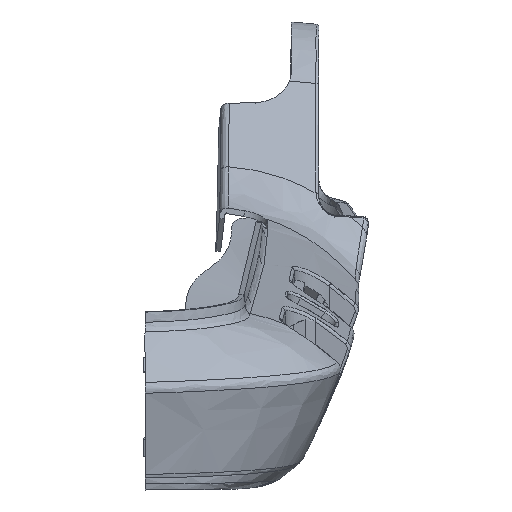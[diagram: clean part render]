
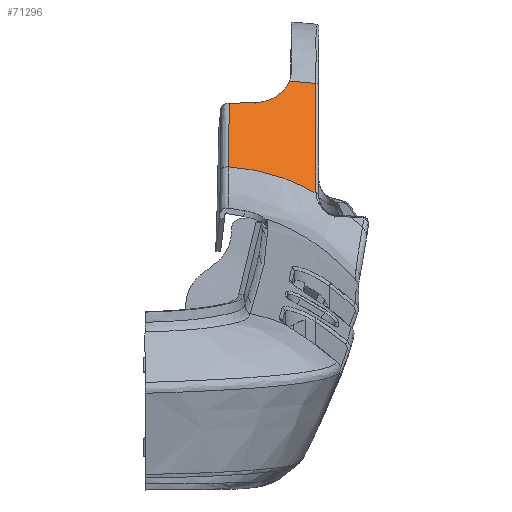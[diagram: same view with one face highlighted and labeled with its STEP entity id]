
A CAD part, left-side view. The second image highlights one B-rep face of the part: STEP entity #71296.
In plain terms, the highlighted planar face has unit normal (-0.824, -0.087, 0.56).
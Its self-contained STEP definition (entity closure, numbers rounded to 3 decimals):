
#70266=AXIS2_PLACEMENT_3D('Plane Axis2P3D',#70263,#70264,#70265) ;
#51668=CARTESIAN_POINT('Vertex',(-138.723,-967.339,553.753)) ;
#51672=CARTESIAN_POINT('Control Point',(-134.352,-923.243,567.048)) ;
#51673=CARTESIAN_POINT('Control Point',(-134.332,-923.549,567.03)) ;
#51674=CARTESIAN_POINT('Control Point',(-134.313,-923.855,567.01)) ;
#51675=CARTESIAN_POINT('Control Point',(-134.295,-924.161,566.989)) ;
#51676=CARTESIAN_POINT('Control Point',(-133.767,-933.468,566.317)) ;
#51677=CARTESIAN_POINT('Control Point',(-134.014,-942.781,564.505)) ;
#51678=CARTESIAN_POINT('Control Point',(-134.984,-951.465,561.726)) ;
#51679=CARTESIAN_POINT('Control Point',(-136.59,-959.669,558.086)) ;
#51680=CARTESIAN_POINT('Control Point',(-138.721,-967.339,553.757)) ;
#51681=CARTESIAN_POINT('Vertex',(-134.352,-923.243,567.048)) ;
#57758=CARTESIAN_POINT('Vertex',(-110.908,-936.726,599.442)) ;
#57762=CARTESIAN_POINT('Control Point',(-101.723,-953.946,610.275)) ;
#57763=CARTESIAN_POINT('Control Point',(-102.951,-953.301,608.57)) ;
#57764=CARTESIAN_POINT('Control Point',(-104.149,-952.372,606.952)) ;
#57765=CARTESIAN_POINT('Control Point',(-105.294,-951.167,605.454)) ;
#57766=CARTESIAN_POINT('Control Point',(-107.554,-948.076,602.61)) ;
#57767=CARTESIAN_POINT('Control Point',(-109.3,-944.063,600.666)) ;
#57768=CARTESIAN_POINT('Control Point',(-110.05,-941.715,599.928)) ;
#57769=CARTESIAN_POINT('Control Point',(-110.59,-939.241,599.518)) ;
#57770=CARTESIAN_POINT('Control Point',(-110.908,-936.726,599.442)) ;
#57771=CARTESIAN_POINT('Vertex',(-101.723,-953.946,610.275)) ;
#58117=CARTESIAN_POINT('Vertex',(-112.57,-923.576,599.043)) ;
#58121=CARTESIAN_POINT('Control Point',(-112.57,-923.576,599.043)) ;
#58122=CARTESIAN_POINT('Control Point',(-112.147,-926.927,599.145)) ;
#58123=CARTESIAN_POINT('Control Point',(-111.725,-930.265,599.246)) ;
#58124=CARTESIAN_POINT('Control Point',(-111.315,-933.504,599.344)) ;
#58125=CARTESIAN_POINT('Control Point',(-110.908,-936.726,599.442)) ;
#61404=CARTESIAN_POINT('Vertex',(-101.104,-967.328,609.104)) ;
#61431=CARTESIAN_POINT('Control Point',(-101.104,-967.328,609.104)) ;
#61432=CARTESIAN_POINT('Control Point',(-101.228,-964.651,609.339)) ;
#61433=CARTESIAN_POINT('Control Point',(-101.352,-961.975,609.573)) ;
#61434=CARTESIAN_POINT('Control Point',(-101.476,-959.299,609.807)) ;
#61435=CARTESIAN_POINT('Control Point',(-101.6,-956.622,610.041)) ;
#61436=CARTESIAN_POINT('Control Point',(-101.723,-953.946,610.275)) ;
#70263=CARTESIAN_POINT('Axis2P3D Location',(-83.036,-924.773,642.311)) ;
#71215=CARTESIAN_POINT('Vertex',(-138.376,-967.328,554.266)) ;
#71219=CARTESIAN_POINT('Control Point',(-138.721,-967.338,553.757)) ;
#71220=CARTESIAN_POINT('Control Point',(-138.609,-967.331,553.922)) ;
#71221=CARTESIAN_POINT('Control Point',(-138.495,-967.328,554.092)) ;
#71222=CARTESIAN_POINT('Control Point',(-138.376,-967.328,554.266)) ;
#71239=CARTESIAN_POINT('Control Point',(-134.352,-923.243,567.048)) ;
#71240=CARTESIAN_POINT('Control Point',(-133.958,-923.253,567.627)) ;
#71241=CARTESIAN_POINT('Control Point',(-133.563,-923.262,568.206)) ;
#71242=CARTESIAN_POINT('Control Point',(-133.168,-923.271,568.786)) ;
#71243=CARTESIAN_POINT('Control Point',(-132.477,-923.285,569.8)) ;
#71244=CARTESIAN_POINT('Control Point',(-131.785,-923.298,570.816)) ;
#71245=CARTESIAN_POINT('Control Point',(-131.489,-923.303,571.251)) ;
#71246=CARTESIAN_POINT('Control Point',(-131.143,-923.309,571.759)) ;
#71247=CARTESIAN_POINT('Control Point',(-130.797,-923.314,572.267)) ;
#71248=CARTESIAN_POINT('Control Point',(-130.748,-923.315,572.34)) ;
#71249=CARTESIAN_POINT('Control Point',(-130.648,-923.317,572.486)) ;
#71250=CARTESIAN_POINT('Control Point',(-130.55,-923.318,572.63)) ;
#71251=CARTESIAN_POINT('Control Point',(-130.501,-923.319,572.702)) ;
#71252=CARTESIAN_POINT('Control Point',(-130.385,-923.321,572.872)) ;
#71253=CARTESIAN_POINT('Control Point',(-130.269,-923.322,573.043)) ;
#71254=CARTESIAN_POINT('Control Point',(-130.227,-923.323,573.104)) ;
#71255=CARTESIAN_POINT('Control Point',(-129.97,-923.327,573.482)) ;
#71256=CARTESIAN_POINT('Control Point',(-129.712,-923.33,573.861)) ;
#71257=CARTESIAN_POINT('Control Point',(-129.523,-923.333,574.138)) ;
#71258=CARTESIAN_POINT('Control Point',(-129.263,-923.337,574.52)) ;
#71259=CARTESIAN_POINT('Control Point',(-129.003,-923.34,574.902)) ;
#71260=CARTESIAN_POINT('Control Point',(-128.964,-923.341,574.96)) ;
#71261=CARTESIAN_POINT('Control Point',(-128.802,-923.343,575.199)) ;
#71262=CARTESIAN_POINT('Control Point',(-128.621,-923.346,575.464)) ;
#71263=CARTESIAN_POINT('Control Point',(-128.533,-923.347,575.593)) ;
#71264=CARTESIAN_POINT('Control Point',(-128.267,-923.351,575.984)) ;
#71265=CARTESIAN_POINT('Control Point',(-127.994,-923.355,576.384)) ;
#71266=CARTESIAN_POINT('Control Point',(-127.82,-923.357,576.64)) ;
#71267=CARTESIAN_POINT('Control Point',(-127.455,-923.363,577.177)) ;
#71268=CARTESIAN_POINT('Control Point',(-127.089,-923.368,577.714)) ;
#71269=CARTESIAN_POINT('Control Point',(-126.915,-923.37,577.97)) ;
#71270=CARTESIAN_POINT('Control Point',(-126.642,-923.374,578.371)) ;
#71271=CARTESIAN_POINT('Control Point',(-126.376,-923.378,578.762)) ;
#71272=CARTESIAN_POINT('Control Point',(-126.288,-923.379,578.891)) ;
#71273=CARTESIAN_POINT('Control Point',(-126.107,-923.382,579.157)) ;
#71274=CARTESIAN_POINT('Control Point',(-125.942,-923.384,579.399)) ;
#71275=CARTESIAN_POINT('Control Point',(-125.902,-923.385,579.459)) ;
#71276=CARTESIAN_POINT('Control Point',(-123.193,-923.424,583.438)) ;
#71277=CARTESIAN_POINT('Control Point',(-120.484,-923.462,587.417)) ;
#71278=CARTESIAN_POINT('Control Point',(-117.846,-923.5,591.293)) ;
#71279=CARTESIAN_POINT('Control Point',(-115.208,-923.538,595.168)) ;
#71280=CARTESIAN_POINT('Control Point',(-112.57,-923.576,599.043)) ;
#71282=CARTESIAN_POINT('Line Origine',(-119.74,-967.328,581.685)) ;
#70264=DIRECTION('Axis2P3D Direction',(-0.824,-0.087,0.56)) ;
#70265=DIRECTION('Axis2P3D XDirection',(-0.562,0.,-0.827)) ;
#71283=DIRECTION('Vector Direction',(0.562,0.,0.827)) ;
#71284=VECTOR('Line Direction',#71283,1.) ;
#71288=ORIENTED_EDGE('',*,*,#61437,.F.) ;
#71289=ORIENTED_EDGE('',*,*,#57773,.T.) ;
#71290=ORIENTED_EDGE('',*,*,#58126,.F.) ;
#71291=ORIENTED_EDGE('',*,*,#71281,.F.) ;
#71292=ORIENTED_EDGE('',*,*,#51683,.F.) ;
#71293=ORIENTED_EDGE('',*,*,#71223,.T.) ;
#71294=ORIENTED_EDGE('',*,*,#71286,.T.) ;
#71296=ADVANCED_FACE('\X2\53F3\X0\ \X2\9970677F\X0\',(#71295),#70267,.T.) ;
#51671=B_SPLINE_CURVE_WITH_KNOTS('',5,(#51672,#51673,#51674,#51675,#51676,#51677,#51678,#51679,#51680),.UNSPECIFIED.,.F.,.U.,(6,3,6),(-1.476,-0.226,36.534),.UNSPECIFIED.) ;
#57761=B_SPLINE_CURVE_WITH_KNOTS('',5,(#57762,#57763,#57764,#57765,#57766,#57767,#57768,#57769,#57770),.UNSPECIFIED.,.F.,.U.,(6,3,6),(0.,15.677,33.693),.UNSPECIFIED.) ;
#58120=B_SPLINE_CURVE_WITH_KNOTS('',4,(#58121,#58122,#58123,#58124,#58125),.UNSPECIFIED.,.F.,.U.,(5,5),(0.,18.899),.UNSPECIFIED.) ;
#61430=B_SPLINE_CURVE_WITH_KNOTS('',5,(#61431,#61432,#61433,#61434,#61435,#61436),.UNSPECIFIED.,.F.,.U.,(6,6),(37.323,50.769),.UNSPECIFIED.) ;
#71218=B_SPLINE_CURVE_WITH_KNOTS('',3,(#71219,#71220,#71221,#71222),.UNSPECIFIED.,.F.,.U.,(4,4),(0.,1.004),.UNSPECIFIED.) ;
#71238=B_SPLINE_CURVE_WITH_KNOTS('',5,(#71239,#71240,#71241,#71242,#71243,#71244,#71245,#71246,#71247,#71248,#71249,#71250,#71251,#71252,#71253,#71254,#71255,#71256,#71257,#71258,#71259,#71260,#71261,#71262,#71263,#71264,#71265,#71266,#71267,#71268,#71269,#71270,#71271,#71272,#71273,#71274,#71275,#71276,#71277,#71278,#71279,#71280),.UNSPECIFIED.,.F.,.U.,(6,3,3,3,3,3,3,3,3,3,3,3,3,6),(0.,5.223,9.141,9.794,10.446,11.347,13.839,14.773,15.621,17.314,19.006,19.854,20.788,55.557),.UNSPECIFIED.) ;
#51683=EDGE_CURVE('',#51669,#51682,#51671,.F.) ;
#57773=EDGE_CURVE('',#57772,#57759,#57761,.T.) ;
#58126=EDGE_CURVE('',#58118,#57759,#58120,.T.) ;
#61437=EDGE_CURVE('',#57772,#61405,#61430,.F.) ;
#71223=EDGE_CURVE('',#51669,#71216,#71218,.T.) ;
#71281=EDGE_CURVE('',#51682,#58118,#71238,.T.) ;
#71286=EDGE_CURVE('',#71216,#61405,#71285,.T.) ;
#71287=EDGE_LOOP('',(#71288,#71289,#71290,#71291,#71292,#71293,#71294)) ;
#71295=FACE_OUTER_BOUND('',#71287,.T.) ;
#71285=LINE('Line',#71282,#71284) ;
#70267=PLANE('',#70266) ;
#51669=VERTEX_POINT('',#51668) ;
#51682=VERTEX_POINT('',#51681) ;
#57759=VERTEX_POINT('',#57758) ;
#57772=VERTEX_POINT('',#57771) ;
#58118=VERTEX_POINT('',#58117) ;
#61405=VERTEX_POINT('',#61404) ;
#71216=VERTEX_POINT('',#71215) ;
